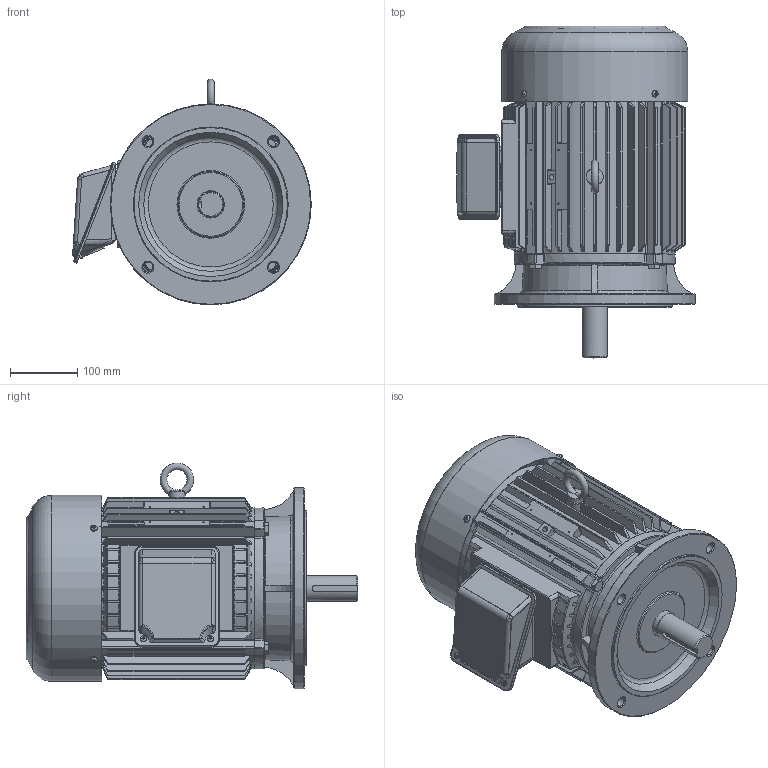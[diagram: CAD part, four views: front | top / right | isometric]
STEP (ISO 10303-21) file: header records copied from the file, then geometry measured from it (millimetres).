
FILE_DESCRIPTION(/* description */ ('Unknown'),/* implementation_level */ '2;1');
FILE_NAME(/* name */ '1-SMA-39685_외형도(228DIA)',/* time_stamp */ '2026-07-24T09:24:09+09:00',/* author */ ('Unknown'),/* organization */ ('Unknown'),/* preprocessor_version */ 'ST-DEVELOPER v16',/* originating_system */ 'DEX',/* authorisation */ $);
FILE_SCHEMA (('AUTOMOTIVE_DESIGN {1 0 10303 214 3 1 1}'));
Products named in the file (18): 1-SMA-39685_寇屈档(228DI; 2-SMA-32965M_FRAME(228DIA); 3-SMA-34522_擅粽塭鰍(228D; 4-SMA-39269_菴粽塭鰍(228D; 5-SMA-40407_SHAFT(228DIA); 6-SMA-31243_FAN(194DIA); 7-SMA-34769_FAN COVER(228DIA); I獐お M12x1.75x22; 幫陝獐お M10x1.5x; ｽﾊﾀﾚ ｵﾕｱﾙ ｸﾓｸｮ ｺｼﾆｮ Mﾒ ; 5.5~15kW(7.5~20HP)_攪嘐割 夢蝶(205~260n; 8-SMA-33050_T-BOX(»ó)(205~260DIA)F¢	; 9-SMA-33051_T-BOX(ж)(205~260DIA); 褊濠 菅斬 該葬 獐お M5x; T-BOX 歜衛 馨檜綰斜楠萄(205~傽(; T-BOX 憶っ(205~260DIA) V~; 6306ZZ; 6308ZZ
Assembly tree (28 placements, depth 3):
  1-SMA-39685_寇屈档(228DI
    2-SMA-32965M_FRAME(228DIA)
    3-SMA-34522_擅粽塭鰍(228D
    4-SMA-39269_菴粽塭鰍(228D
    5-SMA-40407_SHAFT(228DIA)
    6-SMA-31243_FAN(194DIA)
    7-SMA-34769_FAN COVER(228DIA)
    I獐お M12x1.75x22
    幫陝獐お M10x1.5x  x8
    ｽﾊﾀﾚ ｵﾕｱﾙ ｸﾓｸｮ ｺｼﾆｮ Mﾒ   x4
    5.5~15kW(7.5~20HP)_攪嘐割 夢蝶(205~260n
      8-SMA-33050_T-BOX(»ó)(205~260DIA)F¢	
      9-SMA-33051_T-BOX(ж)(205~260DIA)
      褊濠 菅斬 該葬 獐お M5x  x2
      T-BOX 歜衛 馨檜綰斜楠萄(205~傽(
      T-BOX 憶っ(205~260DIA) V~
    6306ZZ
    6308ZZ
Bounding box: 355.99 x 494.99 x 336.98 mm (x, y, z)
Volume: 4828872.8 mm3; surface area: 1656413.4 mm2
Topology: 49 solids, 49 shells, 1882 faces, 4859 edges, 3095 vertices
Faces by surface type: plane 640, cylinder 541, cone 292, torus 199, bspline 170, sphere 40
Full cylindrical faces by diameter (mm): 2.2 x4, 4.134 x2, 4.917 x6, 5 x2, 6 x10, 7 x2, 8 x1, 8.376 x16, 9 x2, 10 x16, 10.106 x2, 12 x10, 15 x4, 22 x1, 25 x1, 29.8 x1, 30 x2, 30.6 x1, 35 x2, 38 x1, 39.8 x1, 40 x6, 40.6 x1, 42 x2, 42.4 x2, 43.1 x1, 45 x1, 54.286 x2, 54.686 x2, 59.6 x2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
Entity records: 75088 total; most frequent: CARTESIAN_POINT 32027, ORIENTED_EDGE 8082, DIRECTION 7410, EDGE_CURVE 4041, AXIS2_PLACEMENT_3D 3110, VERTEX_POINT 2721, FACE_BOUND 2084, EDGE_LOOP 2055
